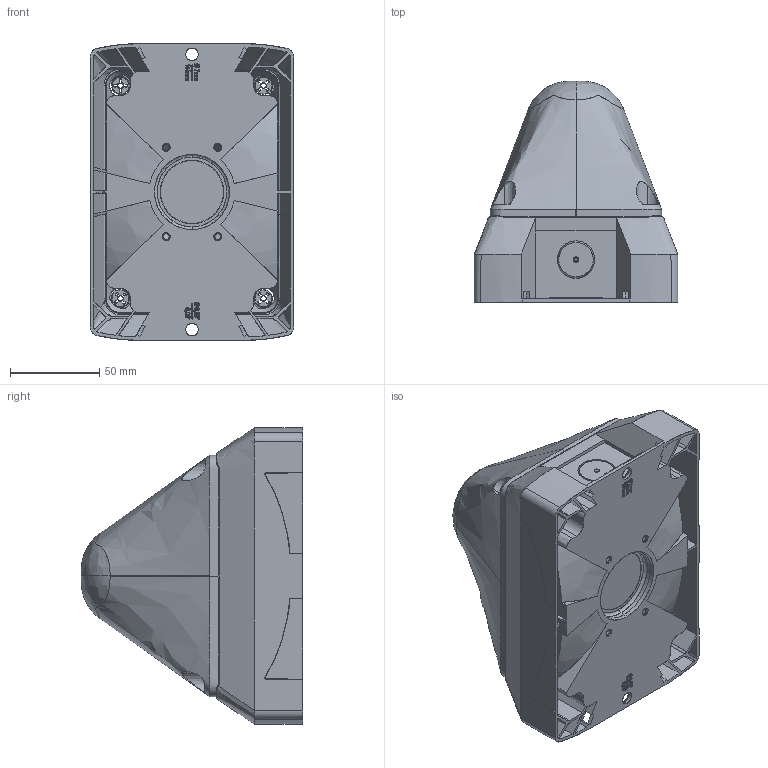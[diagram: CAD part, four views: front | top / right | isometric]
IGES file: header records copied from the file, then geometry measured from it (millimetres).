
Start section: SolidWorks IGES file using analytic representation for surfaces
Global section: file name: L:\3D Volumenmodelle\PATROL_PYRA\PYRA M\PYRA M\PYRA_X_M_30360-200.IGS; native system: SolidWorks 2012; preprocessor: SolidWorks 2012; author: pdg_mm; date: 140318.150416; units: millimetre
Bounding box: 114 x 124 x 166 mm (x, y, z)
Surface area: 114738.3 mm2 (no closed solid volume)
Topology: 0 solids, 0 shells, 520 faces, 8581 edges, 8581 vertices
Faces by surface type: bspline 389, revolution 131
